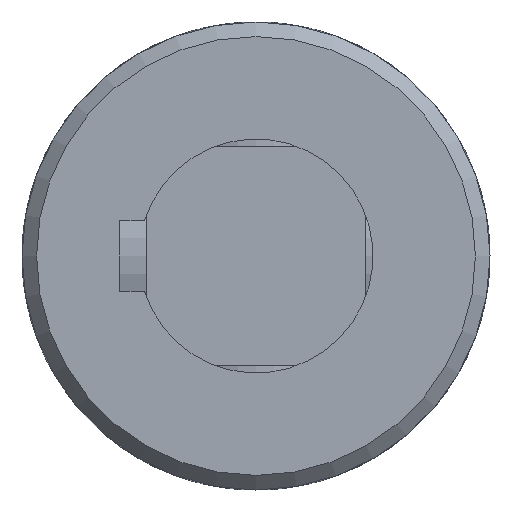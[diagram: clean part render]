
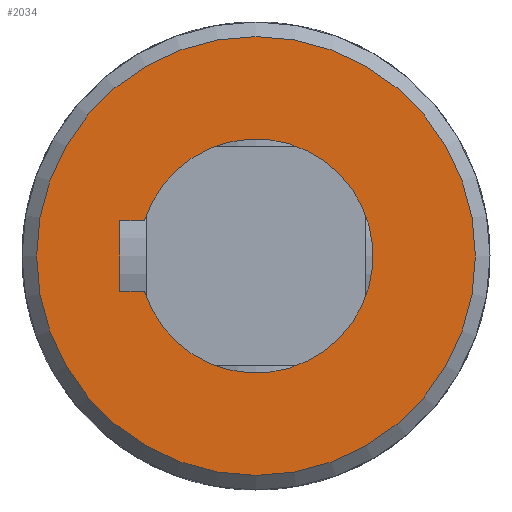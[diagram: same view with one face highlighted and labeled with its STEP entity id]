
A CAD part, front view. The second image highlights one B-rep face of the part: STEP entity #2034.
In plain terms, the highlighted planar face has unit normal (0, -1, 0).
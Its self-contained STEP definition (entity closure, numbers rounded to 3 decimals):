
#124=LINE('',#3770,#195);
#127=LINE('',#3788,#198);
#132=LINE('',#3808,#203);
#195=VECTOR('',#2598,4.221);
#198=VECTOR('',#2609,4.221);
#203=VECTOR('',#2618,12.);
#345=PLANE('',#2225);
#445=FACE_BOUND('',#706,.T.);
#541=FACE_OUTER_BOUND('',#705,.T.);
#705=EDGE_LOOP('',(#1710));
#706=EDGE_LOOP('',(#1711,#1712,#1713,#1714));
#830=CIRCLE('',#2211,20.);
#836=CIRCLE('',#2223,37.5);
#985=VERTEX_POINT('',#3767);
#986=VERTEX_POINT('',#3769);
#989=VERTEX_POINT('',#3779);
#991=VERTEX_POINT('',#3787);
#1004=VERTEX_POINT('',#3897);
#1231=EDGE_CURVE('',#986,#985,#124,.T.);
#1235=EDGE_CURVE('',#989,#986,#830,.T.);
#1238=EDGE_CURVE('',#991,#989,#127,.T.);
#1246=EDGE_CURVE('',#985,#991,#132,.T.);
#1257=EDGE_CURVE('',#1004,#1004,#836,.T.);
#1710=ORIENTED_EDGE('',*,*,#1257,.F.);
#1711=ORIENTED_EDGE('',*,*,#1231,.T.);
#1712=ORIENTED_EDGE('',*,*,#1246,.T.);
#1713=ORIENTED_EDGE('',*,*,#1238,.T.);
#1714=ORIENTED_EDGE('',*,*,#1235,.T.);
#2034=ADVANCED_FACE('',(#541,#445),#345,.F.);
#2211=AXIS2_PLACEMENT_3D('',#3780,#2604,#2605);
#2223=AXIS2_PLACEMENT_3D('',#3898,#2635,#2636);
#2225=AXIS2_PLACEMENT_3D('',#4138,#2643,#2644);
#2598=DIRECTION('',(0.,0.,-1.));
#2604=DIRECTION('center_axis',(0.,1.,0.));
#2605=DIRECTION('ref_axis',(-0.3,0.,0.954));
#2609=DIRECTION('',(0.,0.,1.));
#2618=DIRECTION('',(-1.,0.,0.));
#2635=DIRECTION('center_axis',(0.,1.,0.));
#2636=DIRECTION('ref_axis',(1.,0.,0.));
#2643=DIRECTION('center_axis',(0.,1.,0.));
#2644=DIRECTION('ref_axis',(0.,0.,1.));
#3767=CARTESIAN_POINT('',(6.,-99.,-23.3));
#3769=CARTESIAN_POINT('',(6.,-99.,-19.079));
#3770=CARTESIAN_POINT('',(6.,-99.,-9.539));
#3779=CARTESIAN_POINT('',(-6.,-99.,-19.079));
#3780=CARTESIAN_POINT('Origin',(0.,-99.,0.));
#3787=CARTESIAN_POINT('',(-6.,-99.,-23.3));
#3788=CARTESIAN_POINT('',(-6.,-99.,-11.65));
#3808=CARTESIAN_POINT('',(3.,-99.,-23.3));
#3897=CARTESIAN_POINT('',(-37.5,-99.,0.));
#3898=CARTESIAN_POINT('Origin',(0.,-99.,0.));
#4138=CARTESIAN_POINT('Origin',(0.,-99.,0.));
